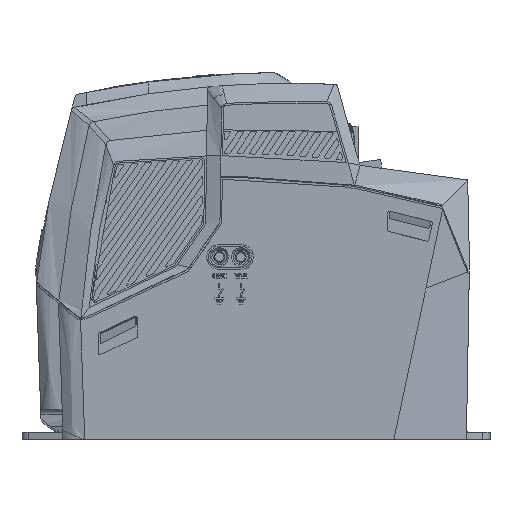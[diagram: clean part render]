
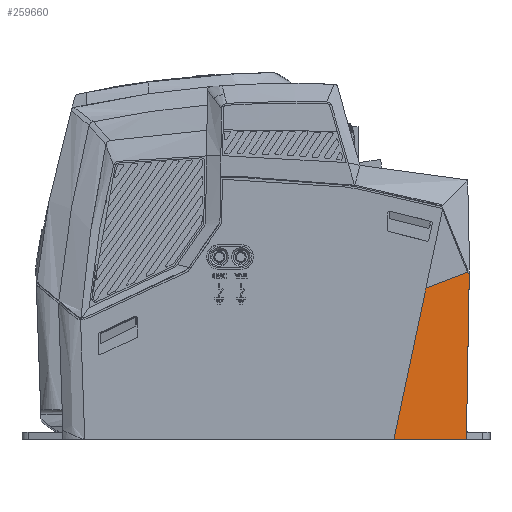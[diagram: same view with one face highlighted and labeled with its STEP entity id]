
A CAD part, left-side view. The second image highlights one B-rep face of the part: STEP entity #259660.
In plain terms, the highlighted free-form (B-spline) face has degree [2, 2] with [4, 4] control points.
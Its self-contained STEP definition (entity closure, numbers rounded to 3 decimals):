
#536 = VERTEX_POINT ( 'NONE', #147745 ) ;
#10187 = EDGE_CURVE ( 'NONE', #238736, #268687, #193065, .T. ) ;
#14280 = EDGE_CURVE ( 'NONE', #185868, #238736, #93781, .T. ) ;
#19934 = CARTESIAN_POINT ( 'NONE',  ( -109.955, -3.893, 71.877 ) ) ;
#21172 = ORIENTED_EDGE ( 'NONE', *, *, #78587, .F. ) ;
#22301 = CARTESIAN_POINT ( 'NONE',  ( -109.994, -3.665, 71.877 ) ) ;
#23693 = CARTESIAN_POINT ( 'NONE',  ( -110.034, -3.438, 71.877 ) ) ;
#25849 = CARTESIAN_POINT ( 'NONE',  ( -113.337, 24.721, 42.541 ) ) ;
#36939 = CARTESIAN_POINT ( 'NONE',  ( -109.853, 24.697, -20.79 ) ) ;
#38696 = EDGE_CURVE ( 'NONE', #536, #172126, #114705, .T. ) ;
#42012 = CARTESIAN_POINT ( 'NONE',  ( -110.147, -2.975, 72.464 ) ) ;
#44073 = CARTESIAN_POINT ( 'NONE',  ( -110.073, -3.211, 71.877 ) ) ;
#47044 = CARTESIAN_POINT ( 'NONE',  ( -111.031, 24.6, 0.897 ) ) ;
#65288 = B_SPLINE_CURVE_WITH_KNOTS ( 'NONE', 3,
 ( #86589, #154314, #171308, #239069 ),
 .UNSPECIFIED., .F., .F.,
 ( 4, 4 ),
 ( 0., 1. ),
 .UNSPECIFIED. ) ;
#69632 = CARTESIAN_POINT ( 'NONE',  ( -106.881, 7.84, -20.79 ) ) ;
#78587 = EDGE_CURVE ( 'NONE', #268687, #172126, #65288, .T. ) ;
#84881 = CARTESIAN_POINT ( 'NONE',  ( -108.336, -3.353, 40.988 ) ) ;
#86589 = CARTESIAN_POINT ( 'NONE',  ( -112.231, 38.182, -20.79 ) ) ;
#88582 = CARTESIAN_POINT ( 'NONE',  ( -111.438, 5.442, 69.268 ) ) ;
#89989 = CARTESIAN_POINT ( 'NONE',  ( -113.705, 20.234, 63.651 ) ) ;
#90493 = ORIENTED_EDGE ( 'NONE', *, *, #38696, .T. ) ;
#90845 = CARTESIAN_POINT ( 'NONE',  ( -112.781, 14.198, 65.96 ) ) ;
#93608 = FACE_OUTER_BOUND ( 'NONE', #217743, .T. ) ;
#93781 = B_SPLINE_CURVE_WITH_KNOTS ( 'NONE', 3,
 ( #19934, #84881, #171007, #128668 ),
 .UNSPECIFIED., .F., .F.,
 ( 4, 4 ),
 ( 0., 1. ),
 .UNSPECIFIED. ) ;
#101132 = ORIENTED_EDGE ( 'NONE', *, *, #10187, .F. ) ;
#101922 = CARTESIAN_POINT ( 'NONE',  ( -107.475, 11.211, -20.79 ) ) ;
#109879 = CARTESIAN_POINT ( 'NONE',  ( -110.073, -3.211, 71.877 ) ) ;
#110559 = B_SPLINE_CURVE_WITH_KNOTS ( 'NONE', 3,
 ( #236974, #22301, #23693, #109879 ),
 .UNSPECIFIED., .F., .F.,
 ( 4, 4 ),
 ( 0., 1. ),
 .UNSPECIFIED. ) ;
#112037 = CARTESIAN_POINT ( 'NONE',  ( -113.705, 20.234, 63.651 ) ) ;
#114705 = B_SPLINE_CURVE_WITH_KNOTS ( 'NONE', 3,
 ( #42012, #88582, #215652, #89989 ),
 .UNSPECIFIED., .F., .F.,
 ( 4, 4 ),
 ( 0., 1. ),
 .UNSPECIFIED. ) ;
#114821 = CARTESIAN_POINT ( 'NONE',  ( -112.231, 38.182, -20.79 ) ) ;
#116207 = CARTESIAN_POINT ( 'NONE',  ( -110.007, -3.91, 72.886 ) ) ;
#128668 = CARTESIAN_POINT ( 'NONE',  ( -105.098, -2.275, -20.79 ) ) ;
#133197 = CARTESIAN_POINT ( 'NONE',  ( -110.932, 2.126, 70.577 ) ) ;
#136806 = B_SPLINE_SURFACE_WITH_KNOTS ( 'NONE', 2, 2, ( 
 ( #154392, #69632, #202275, #114821 ),
 ( #240544, #265919, #47044, #200900 ),
 ( #179729, #219324, #263118, #25849 ),
 ( #116207, #133197, #90845, #112037 ) ),
 .UNSPECIFIED., .F., .F., .F.,
 ( 3, 1, 3 ),
 ( 3, 1, 3 ),
 ( 0., 1.355, 2.711 ),
 ( 0., 0.5, 1. ),
 .UNSPECIFIED. ) ;
#137381 = VERTEX_POINT ( 'NONE', #44073 ) ;
#147745 = CARTESIAN_POINT ( 'NONE',  ( -110.147, -2.975, 72.464 ) ) ;
#149866 = CARTESIAN_POINT ( 'NONE',  ( -110.073, -3.211, 71.877 ) ) ;
#150538 = CARTESIAN_POINT ( 'NONE',  ( -113.705, 20.234, 63.651 ) ) ;
#151981 = EDGE_CURVE ( 'NONE', #137381, #536, #214625, .T. ) ;
#154314 = CARTESIAN_POINT ( 'NONE',  ( -112.722, 32.199, 7.357 ) ) ;
#154392 = CARTESIAN_POINT ( 'NONE',  ( -105.098, -2.275, -20.79 ) ) ;
#164861 = ORIENTED_EDGE ( 'NONE', *, *, #14280, .F. ) ;
#168265 = CARTESIAN_POINT ( 'NONE',  ( -110.098, -3.132, 72.073 ) ) ;
#170419 = CARTESIAN_POINT ( 'NONE',  ( -112.231, 38.182, -20.79 ) ) ;
#171007 = CARTESIAN_POINT ( 'NONE',  ( -106.717, -2.814, 10.099 ) ) ;
#171308 = CARTESIAN_POINT ( 'NONE',  ( -113.213, 26.217, 35.504 ) ) ;
#172126 = VERTEX_POINT ( 'NONE', #150538 ) ;
#179729 = CARTESIAN_POINT ( 'NONE',  ( -108.78, -3.501, 49.467 ) ) ;
#185868 = VERTEX_POINT ( 'NONE', #213759 ) ;
#193065 = B_SPLINE_CURVE_WITH_KNOTS ( 'NONE', 3,
 ( #224847, #101922, #36939, #229032 ),
 .UNSPECIFIED., .F., .F.,
 ( 4, 4 ),
 ( 0., 1. ),
 .UNSPECIFIED. ) ;
#193583 = CARTESIAN_POINT ( 'NONE',  ( -110.147, -2.975, 72.464 ) ) ;
#199704 = ORIENTED_EDGE ( 'NONE', *, *, #151981, .T. ) ;
#200900 = CARTESIAN_POINT ( 'NONE',  ( -112.6, 33.695, 0.32 ) ) ;
#202275 = CARTESIAN_POINT ( 'NONE',  ( -110.448, 28.068, -20.79 ) ) ;
#213759 = CARTESIAN_POINT ( 'NONE',  ( -109.955, -3.893, 71.877 ) ) ;
#214625 = B_SPLINE_CURVE_WITH_KNOTS ( 'NONE', 3,
 ( #149866, #168265, #214767, #193583 ),
 .UNSPECIFIED., .F., .F.,
 ( 4, 4 ),
 ( 0., 1. ),
 .UNSPECIFIED. ) ;
#214767 = CARTESIAN_POINT ( 'NONE',  ( -110.123, -3.053, 72.269 ) ) ;
#215652 = CARTESIAN_POINT ( 'NONE',  ( -112.624, 13.178, 66.33 ) ) ;
#217743 = EDGE_LOOP ( 'NONE', ( #90493, #21172, #101132, #164861, #222986, #199704 ) ) ;
#219324 = CARTESIAN_POINT ( 'NONE',  ( -109.919, 3.554, 47.735 ) ) ;
#220507 = EDGE_CURVE ( 'NONE', #185868, #137381, #110559, .T. ) ;
#222986 = ORIENTED_EDGE ( 'NONE', *, *, #220507, .T. ) ;
#224847 = CARTESIAN_POINT ( 'NONE',  ( -105.098, -2.275, -20.79 ) ) ;
#229032 = CARTESIAN_POINT ( 'NONE',  ( -112.231, 38.182, -20.79 ) ) ;
#236974 = CARTESIAN_POINT ( 'NONE',  ( -109.955, -3.893, 71.877 ) ) ;
#238736 = VERTEX_POINT ( 'NONE', #243916 ) ;
#239069 = CARTESIAN_POINT ( 'NONE',  ( -113.705, 20.234, 63.651 ) ) ;
#240544 = CARTESIAN_POINT ( 'NONE',  ( -106.325, -2.684, 2.629 ) ) ;
#243916 = CARTESIAN_POINT ( 'NONE',  ( -105.098, -2.275, -20.79 ) ) ;
#259660 = ADVANCED_FACE ( 'NONE', ( #93608 ), #136806, .T. ) ;
#263118 = CARTESIAN_POINT ( 'NONE',  ( -112.198, 17.665, 44.272 ) ) ;
#265919 = CARTESIAN_POINT ( 'NONE',  ( -107.894, 6.411, 2.052 ) ) ;
#268687 = VERTEX_POINT ( 'NONE', #170419 ) ;
